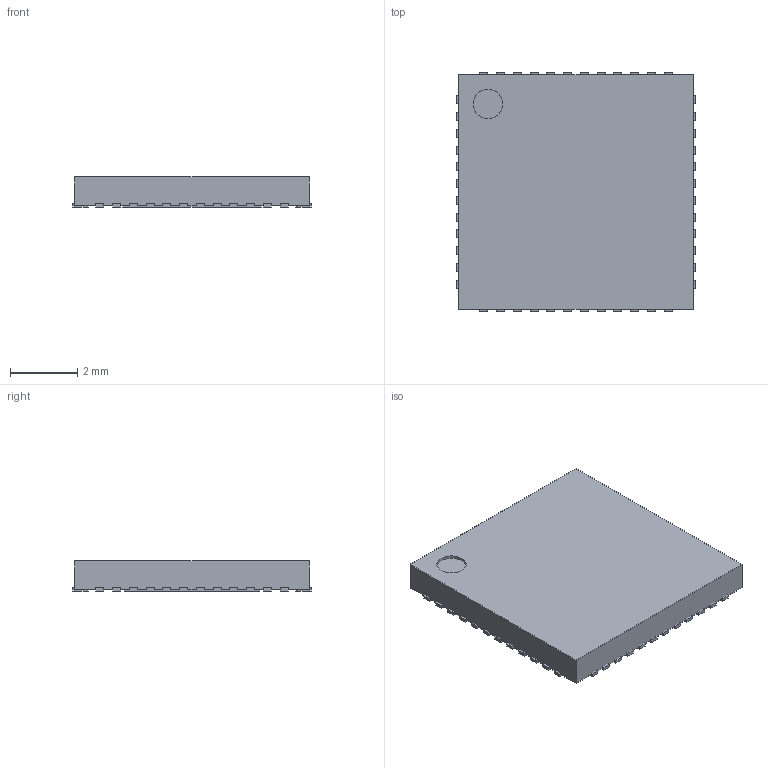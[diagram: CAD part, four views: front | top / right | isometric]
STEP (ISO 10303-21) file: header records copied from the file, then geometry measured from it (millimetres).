
FILE_DESCRIPTION(('FreeCAD Model'),'2;1');
FILE_NAME('/var/www/3D/0T/21466991.1.1.stp','2026-01-20T10:25:37',( 'Author'),(''),'Open CASCADE STEP processor 6.9','FreeCAD','Unknown' );
FILE_SCHEMA(('AUTOMOTIVE_DESIGN { 1 0 10303 214 1 1 1 1 }'));
Length unit declared in the file: millimetre
Products named in the file (5): ASSEMBLY; Body; ThermalPin; PinsArrayLR; PinsArrayTB
Assembly tree (4 placements, depth 2):
  ASSEMBLY
    Body
    ThermalPin
    PinsArrayLR
    PinsArrayTB
Bounding box: 7.1 x 7.1 x 0.9 mm (x, y, z)
Volume: 43.7 mm3; surface area: 172.9 mm2
Topology: 50 solids, 50 shells, 302 faces, 603 edges, 402 vertices
Faces by surface type: plane 253, cylinder 49
Full cylindrical faces by diameter (mm): 0.875 x1
Entity records: 16168 total; most frequent: CARTESIAN_POINT 2806, DIRECTION 2473, LINE 1613, VECTOR 1613, ORIENTED_EDGE 1206, PCURVE 1206, DEFINITIONAL_REPRESENTATION 1206, EDGE_CURVE 603
